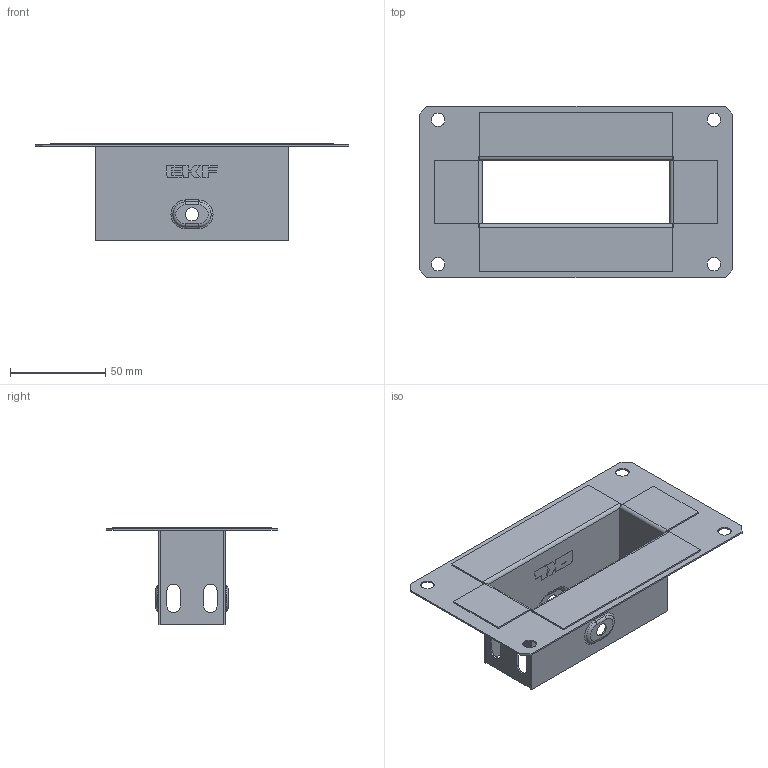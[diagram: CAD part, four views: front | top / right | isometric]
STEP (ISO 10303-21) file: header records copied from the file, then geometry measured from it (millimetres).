
FILE_DESCRIPTION (( 'STEP AP203' ), '1' );
FILE_NAME ('f35100_捘.STEP', '2020-01-23T12:27:18', ( '' ), ( '' ), 'SwSTEP 2.0', 'SolidWorks 2016', '' );
FILE_SCHEMA (( 'CONFIG_CONTROL_DESIGN' ));
Length unit declared in the file: millimetre
Products named in the file (9): f35100_捘; f35100_1; f35100_2; f3550_3
Assembly tree (5 placements, depth 2):
  f35100_捘
    f35100_1
    f35100_2  x2
    f3550_3  x2
  f35100_1
  f35100_2
  f35100_2
  f3550_3
Bounding box: 165 x 90 x 51.5 mm (x, y, z)
Volume: 24629.6 mm3; surface area: 63331.2 mm2
Topology: 5 solids, 5 shells, 306 faces, 792 edges, 512 vertices
Faces by surface type: plane 212, cylinder 60, bspline 18, torus 16
Entity records: 6262 total; most frequent: CARTESIAN_POINT 1358, ORIENTED_EDGE 852, DIRECTION 816, EDGE_CURVE 426, VECTOR 328, LINE 328, VERTEX_POINT 276, AXIS2_PLACEMENT_3D 244
